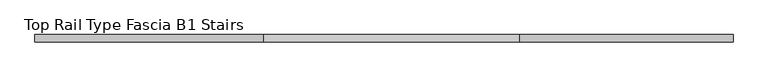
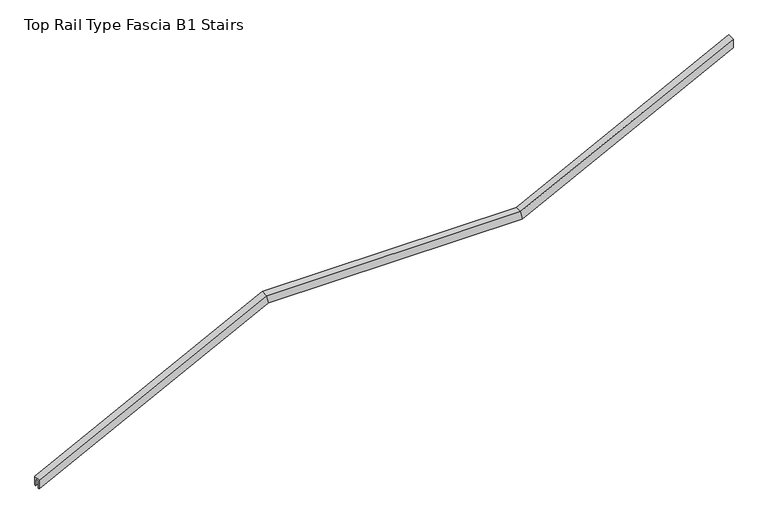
"""IFC4 building model written with IfcOpenShell, lengths in millimetres: proxy geometry, Top Rail Type Fascia B1 Stairs."""

from ifc_helpers import new_model, si_unit, origin, place, context, project, spatial, faceted_brep, source, transform, mapped, element, save


def top_rail_type_fascia_b1_stairs_a29a2bb1(model_context):
    return source(origin(), model_context, "Body", "Brep", [
        faceted_brep([(4578.4721922, 22792.3176645, 2882.4016967), (4578.4721922, 22814.5426645, 2882.4016967), (4578.4721922, 22814.5426645, 2853.9005081), (4578.4721922, 22809.7801645, 2853.9005081), (4578.4721922, 22809.7801645, 2877.0577238), (4578.4721922, 22797.0801645, 2877.0577238), (4578.4721922, 22797.0801645, 2853.9005081), (4578.4721922, 22792.3176645, 2853.9005081), (5276.9721922, 22792.3176645, 3237.9478261), (5276.9721922, 22814.5426645, 3237.9478261), (5283.0647357, 22814.5426645, 3212.5478261), (5283.0647357, 22809.7801645, 3212.5478261), (5278.1145441, 22809.7801645, 3233.1853261), (5278.1145441, 22797.0801645, 3233.1853261), (5283.0647357, 22797.0801645, 3212.5478261), (5283.0647357, 22792.3176645, 3212.5478261), (6058.0221922, 22792.3176645, 3237.9478261), (6058.0221922, 22814.5426645, 3237.9478261), (6064.1147357, 22814.5426645, 3212.5478261), (6064.1147357, 22809.7801645, 3212.5478261), (6059.1645441, 22809.7801645, 3233.1853261), (6059.1645441, 22797.0801645, 3233.1853261), (6064.1147357, 22797.0801645, 3212.5478261), (6064.1147357, 22792.3176645, 3212.5478261), (6712.0721922, 22792.3176645, 3570.8682927), (6712.0721922, 22792.3176645, 3542.3671041), (6712.0721922, 22797.0801645, 3542.3671041), (6712.0721922, 22797.0801645, 3565.5243198), (6712.0721922, 22809.7801645, 3565.5243198), (6712.0721922, 22809.7801645, 3542.3671041), (6712.0721922, 22814.5426645, 3542.3671041), (6712.0721922, 22814.5426645, 3570.8682927)], [[[0, 1, 2, 3, 4, 5, 6, 7]], [[1, 0, 8, 9]], [[2, 1, 9, 10]], [[3, 2, 10, 11]], [[4, 3, 11, 12]], [[5, 4, 12, 13]], [[6, 5, 13, 14]], [[7, 6, 14, 15]], [[0, 7, 15, 8]], [[9, 8, 16, 17]], [[10, 9, 17, 18]], [[11, 10, 18, 19]], [[12, 11, 19, 20]], [[13, 12, 20, 21]], [[14, 13, 21, 22]], [[15, 14, 22, 23]], [[8, 15, 23, 16]], [[24, 25, 26, 27, 28, 29, 30, 31]], [[17, 16, 24, 31]], [[18, 17, 31, 30]], [[19, 18, 30, 29]], [[20, 19, 29, 28]], [[21, 20, 28, 27]], [[22, 21, 27, 26]], [[23, 22, 26, 25]], [[16, 23, 25, 24]]]),
    ])


if __name__ == "__main__":
    model = new_model("IFC4")
    model_context = context("Model", 3, world=origin())
    ifc_project = project(units=[si_unit("LENGTHUNIT", "METRE", prefix="MILLI")], contexts=[model_context])
    site = spatial("IfcSite", under=ifc_project)
    building = spatial("IfcBuilding", under=site)
    placement = place(None, origin())
    top_rail_type_fascia_b1_stairs_shape = top_rail_type_fascia_b1_stairs_a29a2bb1(model_context)
    element("IfcBuildingElementProxy", 1, Name="Top Rail Type Fascia B1 Stairs", ObjectType="Top Rail Type Fascia B1 Stairs", at=placement, inside=building, context=model_context, shape_type="MappedRepresentation", body=[
        mapped(top_rail_type_fascia_b1_stairs_shape, transform((0.0, 0.0, 0.0), x_axis=(1.0, 0.0, 0.0), y_axis=(0.0, 1.0, 0.0), z_axis=(0.0, 0.0, 1.0))),
    ])
    save(model, "model.ifc")
